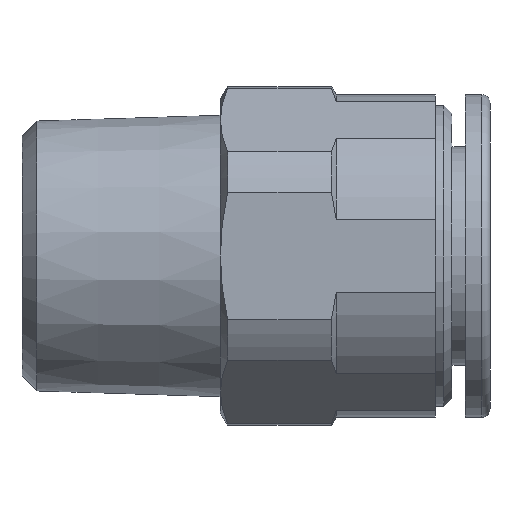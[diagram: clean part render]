
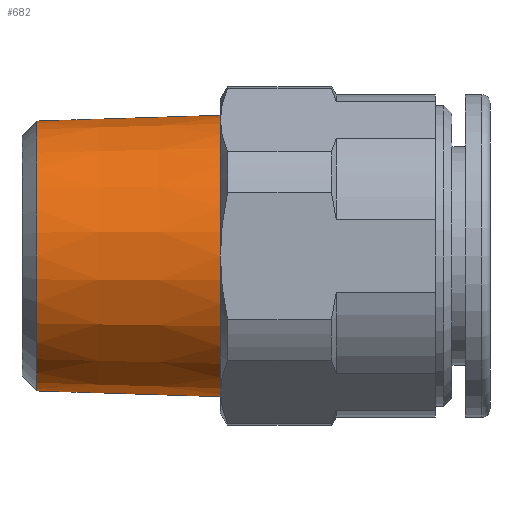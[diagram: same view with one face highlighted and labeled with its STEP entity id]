
A CAD part, front view. The second image highlights one B-rep face of the part: STEP entity #682.
In plain terms, the highlighted conical face has half-angle 1.79 degrees and reference radius 8.331 mm.
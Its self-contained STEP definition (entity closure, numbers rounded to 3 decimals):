
#99=CONICAL_SURFACE($,#737,8.331,1.79);
#131=FACE_BOUND($,#197,.T.);
#150=FACE_OUTER_BOUND($,#196,.T.);
#196=EDGE_LOOP($,(#471));
#197=EDGE_LOOP($,(#472));
#255=CIRCLE($,#736,8.159);
#256=CIRCLE($,#738,8.506);
#300=VERTEX_POINT($,#1047);
#301=VERTEX_POINT($,#1050);
#369=EDGE_CURVE($,#300,#300,#255,.T.);
#370=EDGE_CURVE($,#301,#301,#256,.F.);
#471=ORIENTED_EDGE($,*,*,#370,.F.);
#472=ORIENTED_EDGE($,*,*,#369,.F.);
#682=ADVANCED_FACE($,(#150,#131),#99,.T.);
#736=AXIS2_PLACEMENT_3D($,#1048,#838,#839);
#737=AXIS2_PLACEMENT_3D($,#1049,#840,#841);
#738=AXIS2_PLACEMENT_3D($,#1051,#842,#843);
#838=DIRECTION('center_axis',(-1.,0.,0.));
#839=DIRECTION('ref_axis',(0.,0.,-1.));
#840=DIRECTION('center_axis',(1.,0.,0.));
#841=DIRECTION('ref_axis',(0.,0.,-1.));
#842=DIRECTION('center_axis',(-1.,0.,0.));
#843=DIRECTION('ref_axis',(0.,0.,-1.));
#1047=CARTESIAN_POINT('',(-24.1,0.,8.159));
#1048=CARTESIAN_POINT('Origin',(-24.1,0.,
0.));
#1049=CARTESIAN_POINT('Origin',(-18.6,0.,0.));
#1050=CARTESIAN_POINT('',(-13.,0.,8.506));
#1051=CARTESIAN_POINT('Origin',(-13.,0.,0.));
